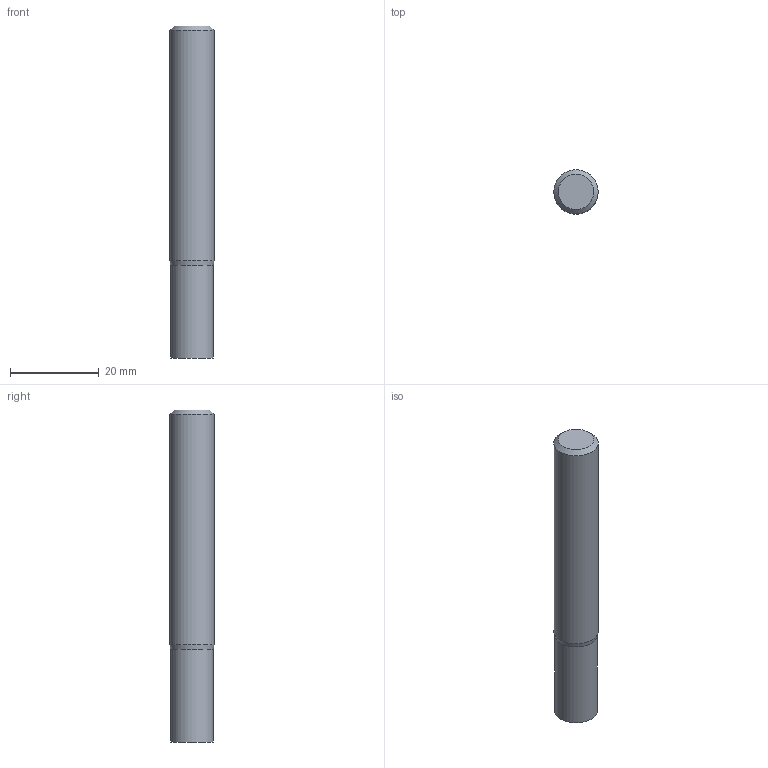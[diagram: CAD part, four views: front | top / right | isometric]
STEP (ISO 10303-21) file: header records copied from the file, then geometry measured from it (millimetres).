
FILE_DESCRIPTION((''),'2;1');
FILE_NAME('C:\Users\nsx150\AppData\Local\Temp\Mastercam 2021\98T1Q6BTT1\TEMP.step','2021-10-21T14:49:59',(''),(''),'STEP Write','Mastercam 2021 ... CNC Software, Inc.','');
FILE_SCHEMA(('AUTOMOTIVE_DESIGN'));
Length unit declared in the file: millimetre
Products named in the file (1): None
Bounding box: 10 x 10 x 75 mm (x, y, z)
Volume: 5776.1 mm3; surface area: 2616.9 mm2
Topology: 2 solids, 2 shells, 8 faces, 10 edges, 6 vertices
Faces by surface type: plane 4, cylinder 2, cone 2
Full cylindrical faces by diameter (mm): 9.7 x1, 10 x1
Entity records: 190 total; most frequent: DIRECTION 32, CARTESIAN_POINT 22, AXIS2_PLACEMENT_3D 16, ORIENTED_EDGE 12, EDGE_LOOP 12, STYLED_ITEM 11, ADVANCED_FACE 8, VERTEX_POINT 6
